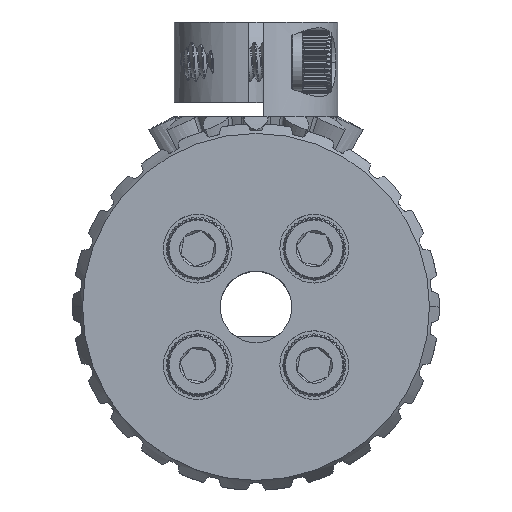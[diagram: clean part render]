
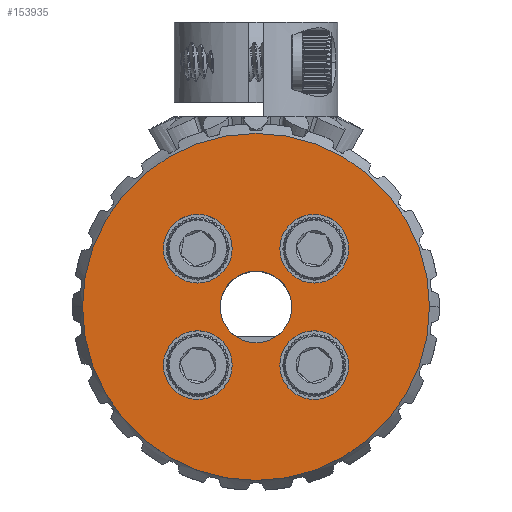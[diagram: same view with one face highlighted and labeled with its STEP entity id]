
A CAD part, top view. The second image highlights one B-rep face of the part: STEP entity #153935.
In plain terms, the highlighted planar face has unit normal (0, 0, 1) as drawn and (-1, 0, 0) by its records, which use the part's own axes.
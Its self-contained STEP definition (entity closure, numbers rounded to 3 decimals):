
#711 = ORIENTED_EDGE ( 'NONE', *, *, #86472, .F. ) ;
#2836 = CARTESIAN_POINT ( 'NONE',  ( -2.212, 5.164, 2.116 ) ) ;
#3122 = AXIS2_PLACEMENT_3D ( 'NONE', #113330, #77973, #103099 ) ;
#4710 = AXIS2_PLACEMENT_3D ( 'NONE', #43359, #153616, #139709 ) ;
#5079 = AXIS2_PLACEMENT_3D ( 'NONE', #5290, #90776, #29886 ) ;
#5290 = CARTESIAN_POINT ( 'NONE',  ( -2.212, -5.164, 5.164 ) ) ;
#6060 = DIRECTION ( 'NONE',  ( 0., 0., 1. ) ) ;
#13032 = DIRECTION ( 'NONE',  ( 0., 0., 1. ) ) ;
#14017 = ORIENTED_EDGE ( 'NONE', *, *, #59412, .F. ) ;
#14254 = CARTESIAN_POINT ( 'NONE',  ( -2.212, 0., 0. ) ) ;
#15229 = FACE_BOUND ( 'NONE', #61679, .T. ) ;
#16225 = DIRECTION ( 'NONE',  ( 0., 0., -1. ) ) ;
#17930 = AXIS2_PLACEMENT_3D ( 'NONE', #65399, #29091, #16225 ) ;
#25027 = VERTEX_POINT ( 'NONE', #102528 ) ;
#26914 = DIRECTION ( 'NONE',  ( -1., 0., 0. ) ) ;
#27290 = VERTEX_POINT ( 'NONE', #48022 ) ;
#27912 = CARTESIAN_POINT ( 'NONE',  ( -2.212, -5.164, 8.212 ) ) ;
#28041 = AXIS2_PLACEMENT_3D ( 'NONE', #134983, #26914, #13032 ) ;
#28297 = CIRCLE ( 'NONE', #124774, 3.048 ) ;
#28708 = AXIS2_PLACEMENT_3D ( 'NONE', #151620, #78204, #6060 ) ;
#29091 = DIRECTION ( 'NONE',  ( -1., 0., 0. ) ) ;
#29886 = DIRECTION ( 'NONE',  ( 0., 0., 1. ) ) ;
#32384 = DIRECTION ( 'NONE',  ( -1., 0., 0. ) ) ;
#35519 = AXIS2_PLACEMENT_3D ( 'NONE', #51541, #64328, #113549 ) ;
#35571 = CARTESIAN_POINT ( 'NONE',  ( -2.212, -5.164, -8.212 ) ) ;
#35867 = ORIENTED_EDGE ( 'NONE', *, *, #127341, .T. ) ;
#35921 = CIRCLE ( 'NONE', #4710, 3.048 ) ;
#38462 = VERTEX_POINT ( 'NONE', #123409 ) ;
#38986 = CARTESIAN_POINT ( 'NONE',  ( -2.212, 5.164, -5.164 ) ) ;
#39320 = DIRECTION ( 'NONE',  ( -1., 0., 0. ) ) ;
#39496 = CIRCLE ( 'NONE', #53006, 15.393 ) ;
#40169 = AXIS2_PLACEMENT_3D ( 'NONE', #38986, #124079, #125152 ) ;
#43259 = VERTEX_POINT ( 'NONE', #91414 ) ;
#43359 = CARTESIAN_POINT ( 'NONE',  ( -2.212, -5.164, -5.164 ) ) ;
#43426 = DIRECTION ( 'NONE',  ( -1., 0., 0. ) ) ;
#47065 = VERTEX_POINT ( 'NONE', #2836 ) ;
#47814 = FACE_BOUND ( 'NONE', #141843, .T. ) ;
#48022 = CARTESIAN_POINT ( 'NONE',  ( -2.212, 0., 15.393 ) ) ;
#49473 = ORIENTED_EDGE ( 'NONE', *, *, #105271, .F. ) ;
#51541 = CARTESIAN_POINT ( 'NONE',  ( -2.212, 5.164, 5.164 ) ) ;
#52115 = EDGE_LOOP ( 'NONE', ( #88179, #35867 ) ) ;
#52623 = VERTEX_POINT ( 'NONE', #115465 ) ;
#53006 = AXIS2_PLACEMENT_3D ( 'NONE', #74625, #39320, #148023 ) ;
#53254 = DIRECTION ( 'NONE',  ( -1., 0., 0. ) ) ;
#54934 = EDGE_CURVE ( 'NONE', #99930, #38462, #150568, .T. ) ;
#56054 = EDGE_CURVE ( 'NONE', #52623, #85017, #144755, .T. ) ;
#59331 = DIRECTION ( 'NONE',  ( -1., 0., 0. ) ) ;
#59412 = EDGE_CURVE ( 'NONE', #43259, #47065, #94479, .T. ) ;
#59782 = CIRCLE ( 'NONE', #104434, 3.175 ) ;
#59845 = EDGE_CURVE ( 'NONE', #104255, #25027, #117351, .T. ) ;
#61679 = EDGE_LOOP ( 'NONE', ( #711, #124439 ) ) ;
#62027 = EDGE_CURVE ( 'NONE', #129803, #141673, #28297, .T. ) ;
#62158 = CIRCLE ( 'NONE', #3122, 3.048 ) ;
#64328 = DIRECTION ( 'NONE',  ( -1., 0., 0. ) ) ;
#64922 = FACE_BOUND ( 'NONE', #65335, .T. ) ;
#65335 = EDGE_LOOP ( 'NONE', ( #109946, #123085 ) ) ;
#65399 = CARTESIAN_POINT ( 'NONE',  ( -2.212, 0., 0. ) ) ;
#68376 = EDGE_LOOP ( 'NONE', ( #49473, #120018 ) ) ;
#72739 = VERTEX_POINT ( 'NONE', #91981 ) ;
#74625 = CARTESIAN_POINT ( 'NONE',  ( -2.212, 0., 0. ) ) ;
#77973 = DIRECTION ( 'NONE',  ( -1., 0., 0. ) ) ;
#78204 = DIRECTION ( 'NONE',  ( -1., 0., 0. ) ) ;
#79086 = CARTESIAN_POINT ( 'NONE',  ( -2.212, 0., 3.175 ) ) ;
#80426 = EDGE_CURVE ( 'NONE', #141673, #129803, #91497, .T. ) ;
#80445 = DIRECTION ( 'NONE',  ( 0., 0., 1. ) ) ;
#82916 = CARTESIAN_POINT ( 'NONE',  ( -2.212, 5.164, -2.116 ) ) ;
#85017 = VERTEX_POINT ( 'NONE', #79086 ) ;
#85931 = FACE_OUTER_BOUND ( 'NONE', #52115, .T. ) ;
#86472 = EDGE_CURVE ( 'NONE', #25027, #104255, #35921, .T. ) ;
#87297 = EDGE_LOOP ( 'NONE', ( #91924, #134664 ) ) ;
#88179 = ORIENTED_EDGE ( 'NONE', *, *, #114842, .T. ) ;
#90335 = EDGE_CURVE ( 'NONE', #38462, #99930, #62158, .T. ) ;
#90776 = DIRECTION ( 'NONE',  ( -1., 0., 0. ) ) ;
#91414 = CARTESIAN_POINT ( 'NONE',  ( -2.212, 5.164, 8.212 ) ) ;
#91497 = CIRCLE ( 'NONE', #5079, 3.048 ) ;
#91612 = FACE_BOUND ( 'NONE', #68376, .T. ) ;
#91665 = AXIS2_PLACEMENT_3D ( 'NONE', #14254, #53254, #114215 ) ;
#91924 = ORIENTED_EDGE ( 'NONE', *, *, #54934, .F. ) ;
#91981 = CARTESIAN_POINT ( 'NONE',  ( -2.212, 0., -15.393 ) ) ;
#94479 = CIRCLE ( 'NONE', #35519, 3.048 ) ;
#95485 = FACE_BOUND ( 'NONE', #87297, .T. ) ;
#97253 = CARTESIAN_POINT ( 'NONE',  ( -2.212, -5.164, 2.116 ) ) ;
#99930 = VERTEX_POINT ( 'NONE', #82916 ) ;
#102528 = CARTESIAN_POINT ( 'NONE',  ( -2.212, -5.164, -2.116 ) ) ;
#103099 = DIRECTION ( 'NONE',  ( 0., 0., 1. ) ) ;
#104255 = VERTEX_POINT ( 'NONE', #35571 ) ;
#104434 = AXIS2_PLACEMENT_3D ( 'NONE', #155191, #59331, #144971 ) ;
#105271 = EDGE_CURVE ( 'NONE', #85017, #52623, #59782, .T. ) ;
#109946 = ORIENTED_EDGE ( 'NONE', *, *, #80426, .F. ) ;
#111869 = CIRCLE ( 'NONE', #17930, 15.393 ) ;
#113330 = CARTESIAN_POINT ( 'NONE',  ( -2.212, 5.164, -5.164 ) ) ;
#113549 = DIRECTION ( 'NONE',  ( 0., 0., 1. ) ) ;
#114215 = DIRECTION ( 'NONE',  ( 0., 0., 1. ) ) ;
#114842 = EDGE_CURVE ( 'NONE', #72739, #27290, #39496, .T. ) ;
#115465 = CARTESIAN_POINT ( 'NONE',  ( -2.212, 0., -3.175 ) ) ;
#117351 = CIRCLE ( 'NONE', #126689, 3.048 ) ;
#118314 = DIRECTION ( 'NONE',  ( 0., 0., 1. ) ) ;
#120018 = ORIENTED_EDGE ( 'NONE', *, *, #56054, .F. ) ;
#123085 = ORIENTED_EDGE ( 'NONE', *, *, #62027, .F. ) ;
#123409 = CARTESIAN_POINT ( 'NONE',  ( -2.212, 5.164, -8.212 ) ) ;
#124079 = DIRECTION ( 'NONE',  ( -1., 0., 0. ) ) ;
#124431 = PLANE ( 'NONE',  #91665 ) ;
#124439 = ORIENTED_EDGE ( 'NONE', *, *, #59845, .F. ) ;
#124774 = AXIS2_PLACEMENT_3D ( 'NONE', #142576, #32384, #80445 ) ;
#125152 = DIRECTION ( 'NONE',  ( 0., 0., 1. ) ) ;
#126565 = CIRCLE ( 'NONE', #28708, 3.048 ) ;
#126590 = ORIENTED_EDGE ( 'NONE', *, *, #134614, .F. ) ;
#126689 = AXIS2_PLACEMENT_3D ( 'NONE', #130114, #43426, #118314 ) ;
#127341 = EDGE_CURVE ( 'NONE', #27290, #72739, #111869, .T. ) ;
#129803 = VERTEX_POINT ( 'NONE', #97253 ) ;
#130114 = CARTESIAN_POINT ( 'NONE',  ( -2.212, -5.164, -5.164 ) ) ;
#134614 = EDGE_CURVE ( 'NONE', #47065, #43259, #126565, .T. ) ;
#134664 = ORIENTED_EDGE ( 'NONE', *, *, #90335, .F. ) ;
#134983 = CARTESIAN_POINT ( 'NONE',  ( -2.212, 0., 0. ) ) ;
#139709 = DIRECTION ( 'NONE',  ( 0., 0., 1. ) ) ;
#141673 = VERTEX_POINT ( 'NONE', #27912 ) ;
#141843 = EDGE_LOOP ( 'NONE', ( #14017, #126590 ) ) ;
#142576 = CARTESIAN_POINT ( 'NONE',  ( -2.212, -5.164, 5.164 ) ) ;
#144755 = CIRCLE ( 'NONE', #28041, 3.175 ) ;
#144971 = DIRECTION ( 'NONE',  ( 0., 0., 1. ) ) ;
#148023 = DIRECTION ( 'NONE',  ( 0., 0., -1. ) ) ;
#150568 = CIRCLE ( 'NONE', #40169, 3.048 ) ;
#151620 = CARTESIAN_POINT ( 'NONE',  ( -2.212, 5.164, 5.164 ) ) ;
#153616 = DIRECTION ( 'NONE',  ( -1., 0., 0. ) ) ;
#153935 = ADVANCED_FACE ( 'NONE', ( #15229, #64922, #47814, #95485, #91612, #85931 ), #124431, .T. ) ;
#155191 = CARTESIAN_POINT ( 'NONE',  ( -2.212, 0., 0. ) ) ;
